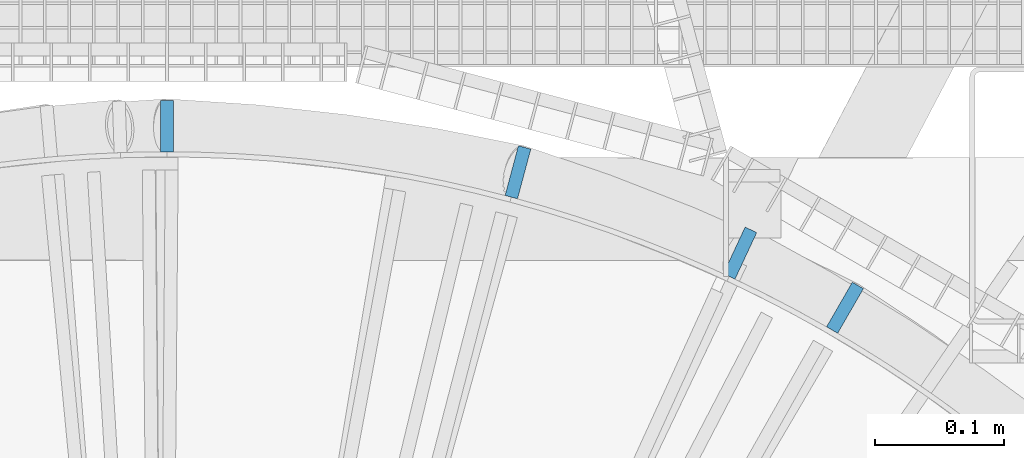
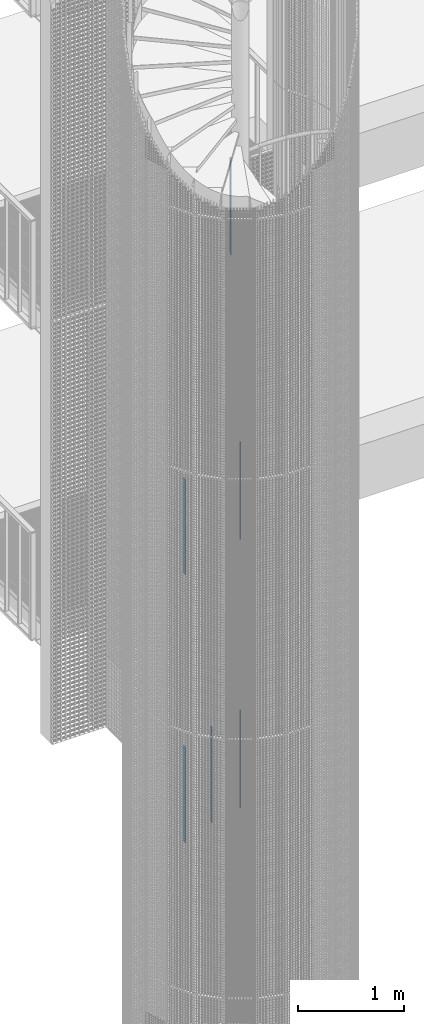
# One storey, part 64 of 1148: 6 columns, 6 elements without a shape of their own.
"""IFC2X3 building model written with IfcOpenShell, lengths in millimetres."""

from ifc_helpers import new_model, si_unit, frame, origin_with_axes, origin_2d_with_axis, place, context, subcontext, project, spatial, rectangle, extrude, material, type_object, element, aggregate, save


model = new_model("IFC2X3")

# Units and contexts
model_context = context("Model", 3, precision=1e-05, world=origin_with_axes())
body_context = subcontext(model_context, "Body", "Model", "MODEL_VIEW")
ifc_project = project(units=[si_unit("LENGTHUNIT", "METRE", prefix="MILLI"), si_unit("AREAUNIT", "SQUARE_METRE"), si_unit("VOLUMEUNIT", "CUBIC_METRE"), si_unit("MASSUNIT", "GRAM", prefix="KILO"), si_unit("TIMEUNIT", "SECOND"), si_unit("PLANEANGLEUNIT", "RADIAN"), si_unit("SOLIDANGLEUNIT", "STERADIAN"), si_unit("THERMODYNAMICTEMPERATUREUNIT", "DEGREE_CELSIUS"), si_unit("LUMINOUSINTENSITYUNIT", "LUMEN")], contexts=[model_context])

# Site, building, storey
site_placement = place(None, origin_with_axes())
site = spatial("IfcSite", under=ifc_project, at=site_placement, Name="Undefined", CompositionType="ELEMENT")
building_placement = place(site_placement, origin_with_axes())
building = spatial("IfcBuilding", under=site, at=building_placement, Name="Undefined", CompositionType="ELEMENT")
storey_placement = place(building_placement, origin_with_axes())
storey = spatial("IfcBuildingStorey", under=building, at=storey_placement, Name="Undefined", CompositionType="ELEMENT", Elevation=0.0)

# Assembly, column
assembly_1_placement = place(storey_placement, origin_with_axes())
assembly_1 = element("IfcElementAssembly", 1, at=assembly_1_placement, inside=storey, Name="MONTANT", AssemblyPlace="NOTDEFINED", PredefinedType="NOTDEFINED")
ifc_material = material(Name="STEEL/S235JR")
column_type = type_object("IfcColumnType", Name="PL10*40", PredefinedType="NOTDEFINED")
column_1_placement = place(assembly_1_placement, frame((22045.4396478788, 955.248407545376, 10090.0), z_axis=(0.0, 0.0, 1.0), x_axis=(-0.422618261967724, -0.906307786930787, 0.0)))
column_1 = element("IfcColumn", 2, at=column_1_placement, type_object=column_type, material=ifc_material, Name="MONTANT", context=body_context, shape_type="SweptSolid", body=[
    extrude(rectangle(XDim=10.0, YDim=40.0, at=origin_2d_with_axis()), frame((0.0, 0.0, 1100.0), z_axis=(0.0, 0.0, -1.0), x_axis=(0.0, 1.0, 0.0)), (0.0, 0.0, 1.0), 1100.0),
])
aggregate(assembly_1, [column_1])

assembly_2_placement = place(storey_placement, origin_with_axes())
assembly_2 = element("IfcElementAssembly", 3, at=assembly_2_placement, inside=storey, Name="MONTANT", AssemblyPlace="NOTDEFINED", PredefinedType="NOTDEFINED")
column_2_placement = place(assembly_2_placement, frame((22127.0000000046, 912.790775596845, 6803.04), z_axis=(0.0, 0.0, 1.0), x_axis=(-0.49999999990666, -0.866025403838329, 0.0)))
column_2 = element("IfcColumn", 4, at=column_2_placement, type_object=column_type, material=ifc_material, Name="MONTANT", context=body_context, shape_type="SweptSolid", body=[
    extrude(rectangle(XDim=10.0, YDim=40.0, at=origin_2d_with_axis()), frame((0.0, 0.0, 1100.0), z_axis=(0.0, 0.0, -1.0), x_axis=(0.0, 1.0, 0.0)), (0.0, 0.0, 1.0), 1100.0),
])
aggregate(assembly_2, [column_2])

assembly_3_placement = place(storey_placement, origin_with_axes())
assembly_3 = element("IfcElementAssembly", 5, at=assembly_3_placement, inside=storey, Name="MONTANT", AssemblyPlace="NOTDEFINED", PredefinedType="NOTDEFINED")
column_3_placement = place(assembly_3_placement, frame((21600.0, 1054.00000000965, 6490.0), z_axis=(0.0, 0.0, 1.0), x_axis=(0.0, -1.0, 0.0)))
column_3 = element("IfcColumn", 6, at=column_3_placement, type_object=column_type, material=ifc_material, Name="MONTANT", context=body_context, shape_type="SweptSolid", body=[
    extrude(rectangle(XDim=10.0, YDim=40.0, at=origin_2d_with_axis()), frame((0.0, 0.0, 1100.0), z_axis=(0.0, 0.0, -1.0), x_axis=(0.0, 1.0, 0.0)), (0.0, 0.0, 1.0), 1100.0),
])
aggregate(assembly_3, [column_3])

assembly_4_placement = place(storey_placement, origin_with_axes())
assembly_4 = element("IfcElementAssembly", 7, at=assembly_4_placement, inside=storey, Name="MONTANT", AssemblyPlace="NOTDEFINED", PredefinedType="NOTDEFINED")
column_4_placement = place(assembly_4_placement, frame((21872.7952735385, 1018.08582091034, 3553.96), z_axis=(0.0, 0.0, 1.0), x_axis=(-0.258819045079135, -0.965925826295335, 0.0)))
column_4 = element("IfcColumn", 8, at=column_4_placement, type_object=column_type, material=ifc_material, Name="MONTANT", context=body_context, shape_type="SweptSolid", body=[
    extrude(rectangle(XDim=10.0, YDim=40.0, at=origin_2d_with_axis()), frame((0.0, 0.0, 1100.0), z_axis=(0.0, 0.0, -1.0), x_axis=(0.0, 1.0, 0.0)), (0.0, 0.0, 1.0), 1100.0),
])
aggregate(assembly_4, [column_4])

assembly_5_placement = place(storey_placement, origin_with_axes())
assembly_5 = element("IfcElementAssembly", 9, at=assembly_5_placement, inside=storey, Name="MONTANT", AssemblyPlace="NOTDEFINED", PredefinedType="NOTDEFINED")
column_5_placement = place(assembly_5_placement, frame((21600.0, 1054.00000000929, 3399.44), z_axis=(0.0, 0.0, 1.0), x_axis=(0.0, -1.0, 0.0)))
column_5 = element("IfcColumn", 10, at=column_5_placement, type_object=column_type, material=ifc_material, Name="MONTANT", context=body_context, shape_type="SweptSolid", body=[
    extrude(rectangle(XDim=10.0, YDim=40.0, at=origin_2d_with_axis()), frame((0.0, 0.0, 1100.0), z_axis=(0.0, 0.0, -1.0), x_axis=(0.0, 1.0, 0.0)), (0.0, 0.0, 1.0), 1100.0),
])
aggregate(assembly_5, [column_5])

assembly_6_placement = place(storey_placement, origin_with_axes())
assembly_6 = element("IfcElementAssembly", 11, at=assembly_6_placement, inside=storey, Name="MONTANT", AssemblyPlace="NOTDEFINED", PredefinedType="NOTDEFINED")
column_6_placement = place(assembly_6_placement, frame((22127.0000000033, 912.790775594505, 3708.48), z_axis=(0.0, 0.0, 1.0), x_axis=(-0.49999999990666, -0.866025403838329, 0.0)))
column_6 = element("IfcColumn", 12, at=column_6_placement, type_object=column_type, material=ifc_material, Name="MONTANT", context=body_context, shape_type="SweptSolid", body=[
    extrude(rectangle(XDim=10.0, YDim=40.0, at=origin_2d_with_axis()), frame((0.0, 0.0, 1100.0), z_axis=(0.0, 0.0, -1.0), x_axis=(0.0, 1.0, 0.0)), (0.0, 0.0, 1.0), 1100.0),
])
aggregate(assembly_6, [column_6])

save(model, "model.ifc")
